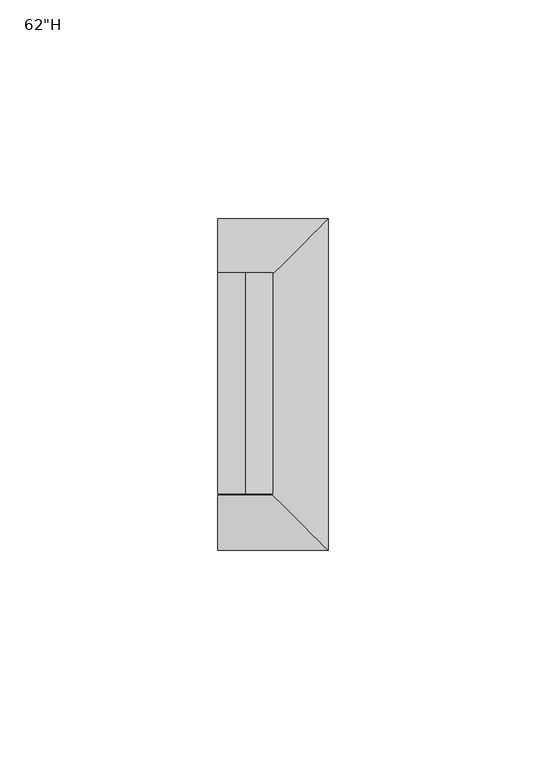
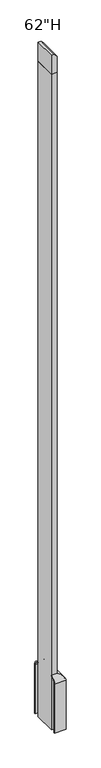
"""IFC4 building model written with IfcOpenShell, lengths in millimetres: furniture geometry."""

from ifc_helpers import new_model, si_unit, frame, origin, place, context, project, spatial, polyline, circle_curve, ellipse_curve, outline, extrude, source, transform, mapped, element, save
from ifc_brep_helpers import plane_surface, cylinder_surface, revolved_surface, advanced_brep


def furniture_0fa552dd(model_context):
    return source(origin(), model_context, "Body", "SolidModel", [
        extrude(outline(polyline([(1539.875, 1984.8560512), (1539.875, 1997.5560512), (1577.975, 1997.5560512), (1584.325, 1991.2060512), (1584.325, 1984.8560512), (1539.875, 1984.8560512)])), frame((0.0, -2474.1387877, 0.0), z_axis=(0.0, 1.0, 0.0), x_axis=(0.0, 0.0, 1.0)), (0.0, 0.0, 1.0), 50.8),
        advanced_brep(
        [(1984.8560512, -2410.6387877, 123.825), (1984.8560512, -2410.6387877, 9.525), (1984.8560512, -2412.2262877, 9.525), (1984.8560512, -2412.2262877, 123.825), (1984.8560512, -2423.3387877, 134.9375), (1984.8560512, -2423.3387877, 136.525), (2010.2560512, -2410.6387877, 123.825), (2010.2560512, -2410.6387877, 9.525), (2010.2560512, -2486.8387877, 9.525), (1984.8560512, -2486.8387877, 9.525), (1984.8560512, -2485.2512877, 9.525), (2008.6685512, -2485.2512877, 9.525), (2008.6685512, -2412.2262877, 9.525), (2008.6685512, -2412.2262877, 123.825), (1997.5560512, -2423.3387877, 134.9375), (1997.5560512, -2423.3387877, 136.525), (2010.2560512, -2486.8387877, 123.825), (2008.6685512, -2485.2512877, 123.825), (1997.5560512, -2474.1387877, 134.9375), (1997.5560512, -2474.1387877, 136.525), (1984.8560512, -2486.8387877, 123.825), (1984.8560512, -2474.1387877, 136.525), (1984.8560512, -2474.1387877, 134.9375), (1984.8560512, -2485.2512877, 123.825)],
        [
            (0, 1),
            (1, 2),
            (2, 3),
            (3, 4, circle_curve(frame((1984.8560512, -2423.3387877, 123.825), z_axis=(1.0, 0.0, 0.0), x_axis=(0.0, 1.0, 0.0)), 11.1125)),
            (4, 5),
            (5, 0, circle_curve(frame((1984.8560512, -2423.3387877, 123.825), z_axis=(-1.0, 0.0, 0.0), x_axis=(0.0, 1.0, 0.0)), 12.7)),
            (0, 6),
            (6, 7),
            (7, 1),
            (7, 8),
            (8, 9),
            (9, 10),
            (10, 11),
            (11, 12),
            (12, 2),
            (12, 13),
            (13, 3),
            (13, 14, ellipse_curve(frame((1997.5560512, -2423.3387877, 123.825), z_axis=(0.7071067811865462, -0.7071067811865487, 0.0), x_axis=(0.7071067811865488, 0.7071067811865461, 0.0)), 15.7154482, 11.1125)),
            (14, 4),
            (14, 15),
            (15, 5),
            (15, 6, ellipse_curve(frame((1997.5560512, -2423.3387877, 123.825), z_axis=(-0.7071067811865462, 0.7071067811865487, 0.0), x_axis=(-0.7071067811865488, -0.7071067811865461, 0.0)), 17.9605122, 12.7)),
            (6, 16),
            (16, 8),
            (11, 17),
            (17, 13),
            (17, 18, ellipse_curve(frame((1997.5560512, -2474.1387877, 123.825), z_axis=(-0.7071067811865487, -0.7071067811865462, 0.0), x_axis=(0.7071067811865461, -0.7071067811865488, 0.0)), 15.7154482, 11.1125)),
            (18, 14),
            (18, 19),
            (19, 15),
            (19, 16, ellipse_curve(frame((1997.5560512, -2474.1387877, 123.825), z_axis=(0.7071067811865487, 0.7071067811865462, 0.0), x_axis=(-0.7071067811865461, 0.7071067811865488, 0.0)), 17.9605122, 12.7)),
            (20, 21, circle_curve(frame((1984.8560512, -2474.1387877, 123.825), z_axis=(-1.0, 0.0, 0.0), x_axis=(0.0, -1.0, 0.0)), 12.7)),
            (21, 22),
            (22, 23, circle_curve(frame((1984.8560512, -2474.1387877, 123.825), z_axis=(1.0, 0.0, 0.0), x_axis=(0.0, -1.0, 0.0)), 11.1125)),
            (23, 10),
            (9, 20),
            (16, 20),
            (23, 17),
            (22, 18),
            (21, 19),
        ],
        [
            plane_surface(frame((1984.8560512, -2423.3387877, 136.525), z_axis=(-1.0, 0.0, 0.0), x_axis=(0.0, 0.0, 1.0))),
            plane_surface(frame((1984.8560512, -2410.6387877, 123.825), z_axis=(0.0, 1.0, 0.0), x_axis=(1.0, 0.0, 0.0))),
            plane_surface(frame((1984.8560512, -2410.6387877, 9.525), z_axis=(0.0, 0.0, -1.0), x_axis=(1.0, 0.0, 0.0))),
            plane_surface(frame((1984.8560512, -2412.2262877, 9.525), z_axis=(0.0, -1.0, 0.0), x_axis=(1.0, 0.0, 0.0))),
            revolved_surface(polyline([(2008.6685512, -2412.2262877, 123.825), (1984.8560512, -2412.2262877, 123.825)]), (1984.8560512, -2423.3387877, 123.825), (1.0, 0.0, 0.0)),
            plane_surface(frame((1984.8560512, -2423.3387877, 134.9375), z_axis=(0.0, -1.0, 0.0), x_axis=(1.0, 0.0, 0.0))),
            cylinder_surface(frame((1984.8560512, -2423.3387877, 123.825), z_axis=(-1.0, 0.0, 0.0), x_axis=(0.0, 1.0, 0.0)), 12.7),
            plane_surface(frame((2010.2560512, -2410.6387877, 123.825), z_axis=(1.0, 0.0, 0.0), x_axis=(0.0, -1.0, 0.0))),
            plane_surface(frame((2008.6685512, -2412.2262877, 9.525), z_axis=(-1.0, 0.0, 0.0), x_axis=(0.0, -1.0, 0.0))),
            revolved_surface(polyline([(2008.6685512, -2485.2512877, 123.825), (2008.6685512, -2412.2262877, 123.825)]), (1997.5560512, -2423.3387877, 123.825), (0.0, -1.0, 0.0)),
            plane_surface(frame((1997.5560512, -2423.3387877, 134.9375), z_axis=(-1.0, 0.0, 0.0), x_axis=(0.0, -1.0, 0.0))),
            cylinder_surface(frame((1997.5560512, -2423.3387877, 123.825), z_axis=(0.0, 1.0, 0.0), x_axis=(1.0, 0.0, 0.0)), 12.7),
            plane_surface(frame((1984.8560512, -2474.1387877, 136.525), z_axis=(-1.0, 0.0, 0.0), x_axis=(0.0, 0.0, 1.0))),
            plane_surface(frame((2010.2560512, -2486.8387877, 123.825), z_axis=(0.0, -1.0, 0.0), x_axis=(-1.0, 0.0, 0.0))),
            plane_surface(frame((2008.6685512, -2485.2512877, 9.525), z_axis=(0.0, 1.0, 0.0), x_axis=(-1.0, 0.0, 0.0))),
            revolved_surface(polyline([(1984.8560512, -2485.2512877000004, 123.825), (2008.6685512, -2485.2512877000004, 123.825)]), (1997.5560512, -2474.1387877, 123.825), (-1.0, 0.0, 0.0)),
            plane_surface(frame((1997.5560512, -2474.1387877, 134.9375), z_axis=(0.0, 1.0, 0.0), x_axis=(-1.0, 0.0, 0.0))),
            cylinder_surface(frame((1997.5560512, -2474.1387877, 123.825), z_axis=(1.0, 0.0, 0.0), x_axis=(0.0, -1.0, 0.0)), 12.7),
        ],
        [
            (0, [[1, 2, 3, 4, 5, 6]]),
            (1, [[-1, 7, 8, 9]]),
            (2, [[-2, -9, 10, 11, 12, 13, 14, 15]]),
            (3, [[-3, -15, 16, 17]]),
            (4, [[-4, -17, 18, 19]]),
            (5, [[-5, -19, 20, 21]]),
            (6, [[-6, -21, 22, -7]]),
            (7, [[-8, 23, 24, -10]]),
            (8, [[-16, -14, 25, 26]]),
            (9, [[-18, -26, 27, 28]]),
            (10, [[-20, -28, 29, 30]]),
            (11, [[-22, -30, 31, -23]]),
            (12, [[32, 33, 34, 35, -12, 36]]),
            (13, [[-24, 37, -36, -11]]),
            (14, [[-25, -13, -35, 38]]),
            (15, [[-27, -38, -34, 39]]),
            (16, [[-29, -39, -33, 40]]),
            (17, [[-31, -40, -32, -37]]),
        ],
    ),
        extrude(outline(polyline([(1984.8560512, -2474.1387877), (1984.8560512, -2423.3387877), (1997.5560512, -2423.3387877), (1997.5560512, -2474.1387877), (1984.8560512, -2474.1387877)])), frame((0.0, 0.0, 9.525), z_axis=(0.0, 0.0, 1.0), x_axis=(1.0, 0.0, 0.0)), (0.0, 0.0, 1.0), 1530.35),
    ])


if __name__ == "__main__":
    model = new_model("IFC4")
    model_context = context("Model", 3, world=origin())
    ifc_project = project(units=[si_unit("LENGTHUNIT", "METRE", prefix="MILLI")], contexts=[model_context])
    site = spatial("IfcSite", under=ifc_project)
    building = spatial("IfcBuilding", under=site)
    placement = place(None, origin())
    furniture_shape = furniture_0fa552dd(model_context)
    element("IfcFurniture", 1, ObjectType="HermanMiller_ActionOffice_A1271_FinishedEndStandardBase : 62\"H", at=placement, inside=building, context=model_context, shape_type="MappedRepresentation", body=[
        mapped(furniture_shape, transform((0.0, 0.0, 0.0), x_axis=(1.0, 0.0, 0.0), y_axis=(0.0, 1.0, 0.0), z_axis=(0.0, 0.0, 1.0))),
    ])
    save(model, "model.ifc")
